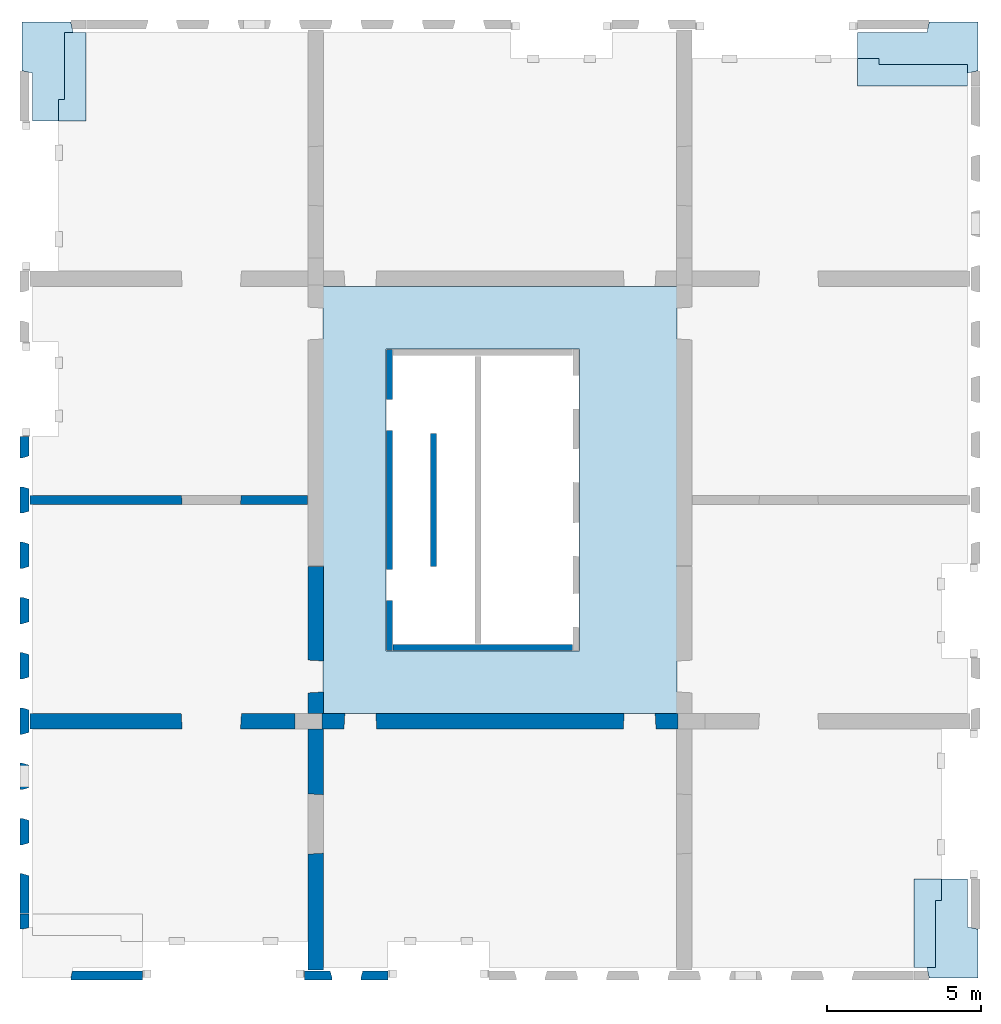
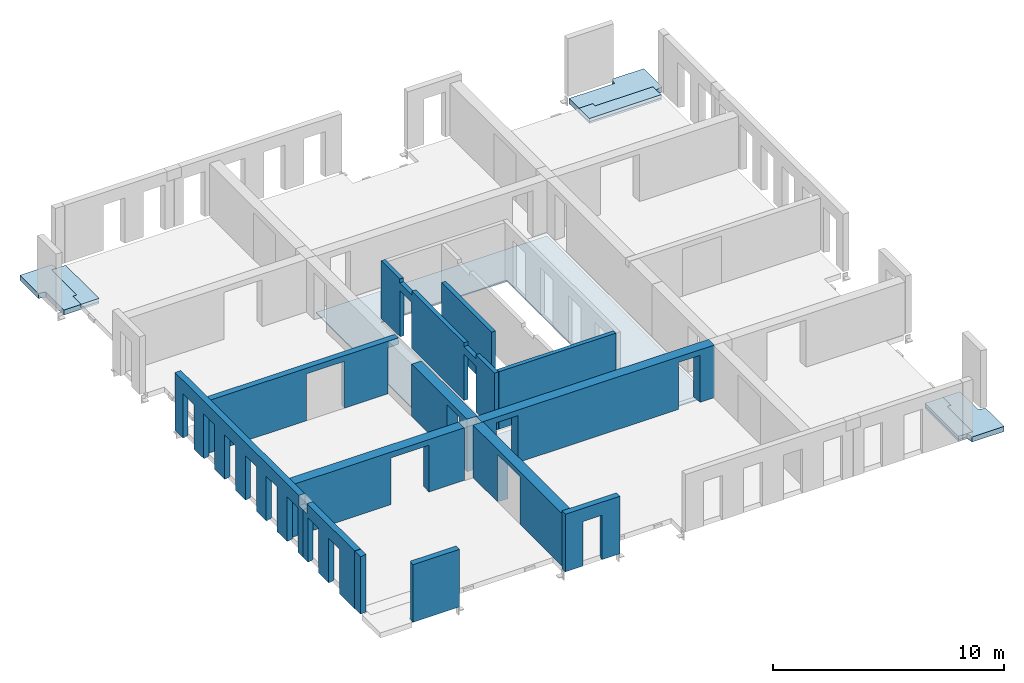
# One storey, part 2 of 4: 13 walls, 7 slabs, 25 openings.
"""IFC2X3 building model written with IfcOpenShell, lengths in millimetres."""

from ifc_helpers import new_model, entity, si_unit, converted_unit, derived_unit, direction, frame, frame_2d, origin, origin_2d_with_axis, place, context, subcontext, project, spatial, polyline, rectangle, outline, extrude, faceted_brep, material, layer, layer_set, layer_usage, type_object, element, save


model = new_model("IFC2X3")

# Units and contexts
model_context = context("Model", 3, precision=0.01, world=origin(), true_north=direction((6.12303176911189e-17, 1.0)))
body_context = subcontext(model_context, "Body", "Model", "MODEL_VIEW")
ifc_project = project(units=[si_unit("LENGTHUNIT", "METRE", prefix="MILLI"), si_unit("AREAUNIT", "SQUARE_METRE"), si_unit("VOLUMEUNIT", "CUBIC_METRE"), converted_unit("PLANEANGLEUNIT", "DEGREE", entity("IfcRatioMeasure", 0.0174532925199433), si_unit("PLANEANGLEUNIT", "RADIAN"), dimensions=[0, 0, 0, 0, 0, 0, 0]), si_unit("MASSUNIT", "GRAM", prefix="KILO"), derived_unit("MASSDENSITYUNIT", [(si_unit("MASSUNIT", "GRAM", prefix="KILO"), 1), (si_unit("LENGTHUNIT", "METRE"), -3)]), si_unit("TIMEUNIT", "SECOND"), si_unit("FREQUENCYUNIT", "HERTZ"), si_unit("THERMODYNAMICTEMPERATUREUNIT", "DEGREE_CELSIUS"), derived_unit("THERMALTRANSMITTANCEUNIT", [(si_unit("MASSUNIT", "GRAM", prefix="KILO"), 1), (si_unit("THERMODYNAMICTEMPERATUREUNIT", "KELVIN"), -1), (si_unit("TIMEUNIT", "SECOND"), -3)]), derived_unit("VOLUMETRICFLOWRATEUNIT", [(si_unit("LENGTHUNIT", "METRE"), 3), (si_unit("TIMEUNIT", "SECOND"), -1)]), si_unit("ELECTRICCURRENTUNIT", "AMPERE"), si_unit("ELECTRICVOLTAGEUNIT", "VOLT"), si_unit("POWERUNIT", "WATT"), si_unit("FORCEUNIT", "NEWTON", prefix="KILO"), si_unit("ILLUMINANCEUNIT", "LUX"), si_unit("LUMINOUSFLUXUNIT", "LUMEN"), si_unit("LUMINOUSINTENSITYUNIT", "CANDELA"), derived_unit("USERDEFINED", [(si_unit("MASSUNIT", "GRAM", prefix="KILO"), -1), (si_unit("LENGTHUNIT", "METRE"), -2), (si_unit("TIMEUNIT", "SECOND"), 3), (si_unit("LUMINOUSFLUXUNIT", "LUMEN"), 1)]), derived_unit("LINEARVELOCITYUNIT", [(si_unit("LENGTHUNIT", "METRE"), 1), (si_unit("TIMEUNIT", "SECOND"), -1)]), si_unit("PRESSUREUNIT", "PASCAL"), derived_unit("USERDEFINED", [(si_unit("LENGTHUNIT", "METRE"), -2), (si_unit("MASSUNIT", "GRAM", prefix="KILO"), 1), (si_unit("TIMEUNIT", "SECOND"), -2)])], contexts=[model_context])

# Site, building, storey
site_placement = place(None, origin())
site = spatial("IfcSite", under=ifc_project, at=site_placement, Name="Default", CompositionType="ELEMENT")
building_placement = place(site_placement, origin())
building = spatial("IfcBuilding", under=site, at=building_placement, Name="niet gebruiken", CompositionType="ELEMENT")
storey_placement = place(building_placement, frame((0.0, 0.0, 30240.0)))
storey = spatial("IfcBuildingStorey", under=building, at=storey_placement, Name="09 negende verdieping", CompositionType="ELEMENT", Elevation=30240.0)

# Slabs
ifc_material_1 = material(Name="NLRS_f2_beton prefab")
ifc_layer_1 = layer(ifc_material_1, 270.0)
ifc_layer_set_1 = layer_set([ifc_layer_1], Name="Floor:NLRS_23.22_FL_beton prefab d=270 3D element_gen")
ifc_layer_usage_1 = layer_usage(ifc_layer_set_1, "AXIS3", "POSITIVE", 0.0)
slab_1_placement = place(storey_placement, origin())
element("IfcSlab", 1, at=slab_1_placement, inside=storey, material=ifc_layer_usage_1, Name="Floor:NLRS_23.22_FL_beton prefab d=270 3D element_gen", ObjectType="Floor:NLRS_23.22_FL_beton prefab d=270 3D element_gen", PredefinedType="LANDING", context=body_context, shape_type="SweptSolid", body=[
    extrude(outline(polyline([(-962.018416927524, -1072.98158307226), (1927.98158307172, -1072.98158307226), (1927.98158307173, 677.01841692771), (362.981583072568, 677.018416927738), (295.128918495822, 1010.01841692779), (-1295.01841692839, 1010.01841692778), (-1295.0184169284, -580.128918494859), (-962.018416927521, -647.981583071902), (-962.018416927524, -1072.98158307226)])), frame((156302.981583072, 3232.01841692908, -90.0), z_axis=(0.0, 0.0, -1.0), x_axis=(0.0, 1.0, 0.0)), (0.0, 0.0, 1.0), 269.999999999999),
])
ifc_layer_usage_2 = layer_usage(ifc_layer_set_1, "AXIS3", "POSITIVE", 0.0)
slab_2_placement = place(storey_placement, origin())
element("IfcSlab", 2, at=slab_2_placement, inside=storey, material=ifc_layer_usage_2, Name="Floor:NLRS_23.22_FL_beton prefab d=270 3D element_gen", ObjectType="Floor:NLRS_23.22_FL_beton prefab d=270 3D element_gen", PredefinedType="LANDING", context=body_context, shape_type="SweptSolid", body=[
    extrude(outline(polyline([(-295.128918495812, -1010.0184169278), (1295.0184169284, -1010.0184169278), (1295.01841692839, 580.128918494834), (962.018416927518, 647.981583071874), (962.018416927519, 1072.98158307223), (-1927.98158307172, 1072.98158307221), (-1927.98158307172, -677.018416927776), (-362.981583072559, -677.018416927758), (-295.128918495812, -1010.0184169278)])), frame((127197.018416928, 31767.9815830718, -90.0), z_axis=(0.0, 0.0, -1.0), x_axis=(0.0, 1.0, 0.0)), (0.0, 0.0, 1.0), 269.999999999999),
])
ifc_layer_usage_3 = layer_usage(ifc_layer_set_1, "AXIS3", "POSITIVE", 0.0)
slab_3_placement = place(storey_placement, origin())
element("IfcSlab", 3, at=slab_3_placement, inside=storey, material=ifc_layer_usage_3, Name="Floor:NLRS_23.22_FL_beton prefab d=270 3D element_gen", ObjectType="Floor:NLRS_23.22_FL_beton prefab d=270 3D element_gen", PredefinedType="LANDING", context=body_context, shape_type="SweptSolid", body=[
    extrude(outline(polyline([(-1072.981583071, -2452.9815830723), (677.018416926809, -2452.9815830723), (677.018416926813, -187.981583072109), (1010.01841692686, -120.12891849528), (1010.01841692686, 1470.01841692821), (-580.128918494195, 1470.01841692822), (-647.981583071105, 1137.01841692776), (-1072.981583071, 1137.01841692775), (-1072.981583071, -2452.9815830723)])), frame((155842.981583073, 32052.9815830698, -90.0), z_axis=(0.0, 0.0, -1.0), x_axis=(0.0, 1.0, 0.0)), (0.0, 0.0, 1.0), 269.999999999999),
])
ifc_material_2 = material(Name="NLRS_f2_beton ihwg")
ifc_layer_2 = layer(ifc_material_2, 170.0)
ifc_layer_set_2 = layer_set([ifc_layer_2], Name="Floor:NLRS_23.21_FL_beton ihwg d=170_gen")
ifc_layer_usage_4 = layer_usage(ifc_layer_set_2, "AXIS3", "POSITIVE", 0.0)
slab_4_placement = place(storey_placement, origin())
element("IfcSlab", 4, at=slab_4_placement, inside=storey, material=ifc_layer_usage_4, Name="Floor:NLRS_23.21_FL_beton ihwg d=170_gen", ObjectType="Floor:NLRS_23.21_FL_beton ihwg d=170_gen", PredefinedType="FLOOR", context=body_context, shape_type="SweptSolid", body=[
    extrude(outline(polyline([(-533.333333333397, -1430.0), (366.666666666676, -1430.0), (366.666666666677, -730.0), (166.666666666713, -730.0), (166.666666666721, 2160.0), (-533.333333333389, 2160.0), (-533.333333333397, -1430.0)])), frame((154820.0, 31513.3333333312, -90.0), z_axis=(0.0, 0.0, -1.0), x_axis=(0.0, 1.0, 0.0)), (0.0, 0.0, 1.0), 170.0),
])
ifc_layer_usage_5 = layer_usage(ifc_layer_set_2, "AXIS3", "POSITIVE", 0.0)
slab_5_placement = place(storey_placement, origin())
element("IfcSlab", 5, at=slab_5_placement, inside=storey, material=ifc_layer_usage_5, Name="Floor:NLRS_23.21_FL_beton ihwg d=170_gen", ObjectType="Floor:NLRS_23.21_FL_beton ihwg d=170_gen", PredefinedType="FLOOR", context=body_context, shape_type="SweptSolid", body=[
    extrude(outline(polyline([(-1693.33333333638, -533.333333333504), (1196.66666666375, -533.333333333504), (1196.66666666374, 366.666666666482), (496.666666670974, 366.666666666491), (496.666666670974, 166.666666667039), (-1693.33333333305, 166.66666666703), (-1693.33333333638, -533.333333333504)])), frame((155763.333333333, 3963.33333333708, -90.0), z_axis=(0.0, 0.0, -1.0), x_axis=(0.0, 1.0, 0.0)), (0.0, 0.0, 1.0), 170.0),
])
ifc_layer_usage_6 = layer_usage(ifc_layer_set_2, "AXIS3", "POSITIVE", 0.0)
slab_6_placement = place(storey_placement, origin())
element("IfcSlab", 6, at=slab_6_placement, inside=storey, material=ifc_layer_usage_6, Name="Floor:NLRS_23.21_FL_beton ihwg d=170_gen", ObjectType="Floor:NLRS_23.21_FL_beton ihwg d=170_gen", PredefinedType="FLOOR", context=body_context, shape_type="SweptSolid", body=[
    extrude(outline(polyline([(-1196.66666666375, -366.666666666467), (-496.666666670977, -366.666666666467), (-496.666666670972, -166.666666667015), (1693.33333333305, -166.666666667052), (1693.33333333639, 533.333333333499), (-1196.66666666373, 533.333333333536), (-1196.66666666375, -366.666666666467)])), frame((127736.666666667, 31036.6666666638, -90.0), z_axis=(0.0, 0.0, -1.0), x_axis=(0.0, 1.0, 0.0)), (0.0, 0.0, 1.0), 170.0),
])

# Slab, opening
ifc_layer_3 = layer(ifc_material_1, 60.0)
ifc_layer_set_3 = layer_set([ifc_layer_3], Name="Floor:NLRS_23.21_FL_breedplaat d=60_gen")
ifc_layer_usage_7 = layer_usage(ifc_layer_set_3, "AXIS3", "POSITIVE", 0.0)
slab_7_placement = place(storey_placement, frame((135990.0, 10540.0, -320.0)))
slab_7 = element("IfcSlab", 7, at=slab_7_placement, inside=storey, material=ifc_layer_usage_7, Name="Floor:NLRS_23.21_FL_breedplaat d=60_gen", ObjectType="Floor:NLRS_23.21_FL_breedplaat d=60_gen", PredefinedType="FLOOR", context=body_context, shape_type="SweptSolid", body=[
    extrude(rectangle(XDim=13919.9999999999, YDim=11520.0, at=frame_2d((0.0, 0.0), x_axis=(0.0, -1.0))), frame((5760.0, 6960.0, 60.0), z_axis=(0.0, 0.0, -1.0), x_axis=(-1.0, 0.0, 0.0)), (0.0, 0.0, 1.0), 59.9999999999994),
])
opening_1_placement = place(slab_7_placement, frame((5200.0, 6960.0, 60.0)))
element("IfcOpeningElement", 8, at=opening_1_placement, cuts=slab_7, Name="Floor:NLRS_23.21_FL_breedplaat d=60_gen:2", ObjectType="Opening", context=body_context, shape_type="SweptSolid", body=[
    extrude(rectangle(XDim=9820.0, YDim=6299.99999999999, at=origin_2d_with_axis()), frame((0.0, 0.0, 0.0), z_axis=(0.0, 0.0, -1.0), x_axis=(0.0, -1.0, 0.0)), (0.0, 0.0, 1.0), 59.9999999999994),
])

# Wall, openings
ifc_layer_4 = layer(ifc_material_1, 200.0)
ifc_layer_set_4 = layer_set([ifc_layer_4], Name="Basic Wall:NLRS_22.21_WA_beton prefab d=200_gen")
ifc_layer_usage_8 = layer_usage(ifc_layer_set_4, "AXIS2", "NEGATIVE", 100.0)
wall_type_1 = type_object("IfcWallType", Name="Basic Wall:NLRS_22.21_WA_beton prefab d=200_gen", PredefinedType="STANDARD", material=ifc_layer_set_4)
wall_1_placement = place(storey_placement, frame((138150.0, 22400.0, -50.0), z_axis=(0.0, 0.0, 1.0), x_axis=(0.0, -1.0, 0.0)))
wall_1 = element("IfcWallStandardCase", 9, at=wall_1_placement, inside=storey, type_object=wall_type_1, material=ifc_layer_usage_8, Name="Basic Wall:NLRS_22.21_WA_beton prefab d=200_gen", ObjectType="Basic Wall:NLRS_22.21_WA_beton prefab d=200_gen", context=body_context, shape_type="SweptSolid", body=[
    extrude(rectangle(XDim=9800.0, YDim=199.999999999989, at=frame_2d((4900.0, 3.76587649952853e-13), x_axis=(-1.0, 0.0))), origin(), (0.0, 0.0, 1.0), 3039.99999999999),
])
opening_2_placement = place(wall_1_placement, origin())
element("IfcOpeningElement", 10, at=opening_2_placement, cuts=wall_1, Name="Basic Wall:NLRS_22.21_WA_beton prefab d=200_gen", ObjectType="Opening", context=body_context, shape_type="SweptSolid", body=[
    extrude(rectangle(XDim=199.999999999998, YDim=1044.0, at=origin_2d_with_axis()), frame((7672.0, -100.0, 2940.0), z_axis=(0.0, 1.0, 0.0), x_axis=(0.0, 0.0, -1.0)), (0.0, 0.0, 1.0), 199.999999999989),
])
opening_3_placement = place(wall_1_placement, origin())
element("IfcOpeningElement", 11, at=opening_3_placement, cuts=wall_1, Name="Basic Wall:NLRS_22.21_WA_beton prefab d=200_gen", ObjectType="Opening", context=body_context, shape_type="SweptSolid", body=[
    extrude(rectangle(XDim=199.999999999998, YDim=1044.0, at=frame_2d((0.0, 2.1600499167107e-12), x_axis=(1.0, 0.0))), frame((2128.0, -100.0, 2940.0), z_axis=(0.0, 1.0, 0.0), x_axis=(0.0, 0.0, -1.0)), (0.0, 0.0, 1.0), 199.999999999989),
])
opening_4_placement = place(wall_1_placement, origin())
element("IfcOpeningElement", 12, at=opening_4_placement, cuts=wall_1, Name="Basic Wall:NLRS_22.21_WA_beton prefab d=200_gen", ObjectType="Opening", context=body_context, shape_type="SweptSolid", body=[
    extrude(rectangle(XDim=2435.00000000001, YDim=1015.99999999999, at=frame_2d((4.32009983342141e-12, 1.10844666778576e-12), x_axis=(1.0, 0.0))), frame((7672.0, -100.0, 1217.50000000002), z_axis=(0.0, 1.0, 0.0), x_axis=(0.0, 0.0, -1.0)), (0.0, 0.0, 1.0), 199.999999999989),
])
opening_5_placement = place(wall_1_placement, origin())
element("IfcOpeningElement", 13, at=opening_5_placement, cuts=wall_1, Name="Basic Wall:NLRS_22.21_WA_beton prefab d=200_gen", ObjectType="Opening", context=body_context, shape_type="SweptSolid", body=[
    extrude(rectangle(XDim=2435.00000000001, YDim=1015.99999999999, at=frame_2d((4.32009983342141e-12, -2.18847162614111e-12), x_axis=(1.0, 0.0))), frame((2128.0, -100.0, 1217.50000000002), z_axis=(0.0, 1.0, 0.0), x_axis=(0.0, 0.0, -1.0)), (0.0, 0.0, 1.0), 199.999999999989),
])

# Walls
ifc_layer_usage_9 = layer_usage(ifc_layer_set_4, "AXIS2", "NEGATIVE", 100.0)
wall_2_placement = place(storey_placement, frame((139590.0, 19660.0, -50.0), z_axis=(0.0, 0.0, 1.0), x_axis=(0.0, -1.0, 0.0)))
element("IfcWallStandardCase", 14, at=wall_2_placement, inside=storey, type_object=wall_type_1, material=ifc_layer_usage_9, Name="Basic Wall:NLRS_22.21_WA_beton prefab d=200_gen", ObjectType="Basic Wall:NLRS_22.21_WA_beton prefab d=200_gen", context=body_context, shape_type="SweptSolid", body=[
    extrude(rectangle(XDim=4320.00000000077, YDim=199.999999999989, at=frame_2d((2160.00000000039, 0.0), x_axis=(-1.0, 0.0))), origin(), (0.0, 0.0, 1.0), 3039.99999999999),
])
ifc_layer_usage_10 = layer_usage(ifc_layer_set_4, "AXIS2", "NEGATIVE", 100.0)
wall_3_placement = place(storey_placement, frame((138270.0, 12700.0, -50.0)))
element("IfcWallStandardCase", 15, at=wall_3_placement, inside=storey, type_object=wall_type_1, material=ifc_layer_usage_10, Name="Basic Wall:NLRS_22.21_WA_beton prefab d=200_gen", ObjectType="Basic Wall:NLRS_22.21_WA_beton prefab d=200_gen", context=body_context, shape_type="SweptSolid", body=[
    extrude(rectangle(XDim=5839.99999999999, YDim=199.999999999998, at=frame_2d((2919.99999999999, -6.82121026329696e-13), x_axis=(-1.0, 0.0))), origin(), (0.0, 0.0, 1.0), 3039.99999999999),
])

# Wall, openings
ifc_layer_5 = layer(ifc_material_1, 300.0)
ifc_layer_set_5 = layer_set([ifc_layer_5], Name="Basic Wall:NLRS_22.21_WA_beton prefab d=300_gen")
ifc_layer_usage_11 = layer_usage(ifc_layer_set_5, "AXIS2", "NEGATIVE", 150.0)
wall_type_2 = type_object("IfcWallType", Name="Basic Wall:NLRS_22.21_WA_beton prefab d=300_gen", PredefinedType="STANDARD", material=ifc_layer_set_5)
wall_4_placement = place(storey_placement, frame((126440.0, 17500.0, -70.0)))
wall_4 = element("IfcWallStandardCase", 16, at=wall_4_placement, inside=storey, type_object=wall_type_2, material=ifc_layer_usage_11, Name="Basic Wall:NLRS_22.21_WA_beton prefab d=300_gen", ObjectType="Basic Wall:NLRS_22.21_WA_beton prefab d=300_gen", context=body_context, shape_type="SweptSolid", body=[
    extrude(rectangle(XDim=9559.9999999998, YDim=300.000000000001, at=frame_2d((4779.9999999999, -4.2632564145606e-14), x_axis=(-1.0, 0.0))), origin(), (0.0, 0.0, 1.0), 2770.0),
])
opening_6_placement = place(wall_4_placement, frame((4942.0, -150.0, 0.0)))
element("IfcOpeningElement", 17, at=opening_6_placement, cuts=wall_4, Name="Basic Wall:NLRS_22.21_WA_beton prefab d=300_gen", ObjectType="Opening", context=body_context, shape_type="Brep", body=[
    faceted_brep([(1918.0, 0.0, 2470.0), (18.0, 0.0, 2470.0), (18.0, 0.0, 0.0), (1918.0, 0.0, 0.0), (1936.0, 300.0, 2488.0), (1936.0, 300.0, 0.0), (0.0, 300.0, 0.0), (0.0, 300.0, 2488.0)], [[[0, 1, 2, 3]], [[4, 5, 6, 7]], [[4, 7, 1, 0]], [[7, 6, 2, 1]], [[6, 5, 3, 2]], [[5, 4, 0, 3]]]),
])
opening_7_placement = place(wall_4_placement, origin())
element("IfcOpeningElement", 18, at=opening_7_placement, cuts=wall_4, Name="Basic Wall:NLRS_22.21_WA_beton prefab d=300_gen", ObjectType="Opening", context=body_context, shape_type="SweptSolid", body=[
    extrude(rectangle(XDim=2440.0, YDim=520.000000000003, at=frame_2d((8.64019966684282e-12, 0.0), x_axis=(0.0, 1.0))), frame((9300.0, 150.0, 1220.0), z_axis=(0.0, -1.0, 0.0), x_axis=(1.0, 0.0, 0.0)), (0.0, 0.0, 1.0), 300.0),
])

# Wall, opening
ifc_layer_6 = layer(ifc_material_1, 500.0)
ifc_layer_set_6 = layer_set([ifc_layer_6], Name="Basic Wall:NLRS_22.21_WA_beton prefab d=500_gen")
ifc_layer_usage_12 = layer_usage(ifc_layer_set_6, "AXIS2", "NEGATIVE", 250.0)
wall_type_3 = type_object("IfcWallType", Name="Basic Wall:NLRS_22.21_WA_beton prefab d=500_gen", PredefinedType="STANDARD", material=ifc_layer_set_6)
wall_5_placement = place(storey_placement, frame((135750.0, 10050.0, -70.0), z_axis=(0.0, 0.0, 1.0), x_axis=(0.0, -1.0, 0.0)))
wall_5 = element("IfcWallStandardCase", 19, at=wall_5_placement, inside=storey, type_object=wall_type_3, material=ifc_layer_usage_12, Name="Basic Wall:NLRS_22.21_WA_beton prefab d=500_gen", ObjectType="Basic Wall:NLRS_22.21_WA_beton prefab d=500_gen", context=body_context, shape_type="SweptSolid", body=[
    extrude(rectangle(XDim=7859.99999999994, YDim=499.99999999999, at=frame_2d((3929.99999999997, 8.5265128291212e-14), x_axis=(-1.0, 0.0))), origin(), (0.0, 0.0, 1.0), 2770.0),
])
opening_8_placement = place(wall_5_placement, frame((4080.0, -250.0, 0.0)))
element("IfcOpeningElement", 20, at=opening_8_placement, cuts=wall_5, Name="Basic Wall:NLRS_22.21_WA_beton prefab d=500_gen", ObjectType="Opening", context=body_context, shape_type="Brep", body=[
    faceted_brep([(-30.0, 500.0, 2470.0), (-30.0, 500.0, 0.0), (-1930.0, 500.0, 0.0), (-1930.0, 500.0, 2470.0), (0.0, 0.0, 2500.0), (-1960.0, 0.0, 2500.0), (-1960.0, 0.0, 0.0), (0.0, 0.0, 0.0)], [[[0, 1, 2, 3]], [[4, 5, 6, 7]], [[4, 0, 3, 5]], [[5, 3, 2, 6]], [[6, 2, 1, 7]], [[7, 1, 0, 4]]]),
])

# Wall, openings
ifc_layer_usage_13 = layer_usage(ifc_layer_set_6, "AXIS2", "NEGATIVE", 250.0)
wall_6_placement = place(storey_placement, frame((135950.003540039, 10300.0, -70.0)))
wall_6 = element("IfcWallStandardCase", 21, at=wall_6_placement, inside=storey, type_object=wall_type_3, material=ifc_layer_usage_13, Name="Basic Wall:NLRS_22.21_WA_beton prefab d=500_gen", ObjectType="Basic Wall:NLRS_22.21_WA_beton prefab d=500_gen", context=body_context, shape_type="SweptSolid", body=[
    extrude(rectangle(XDim=11599.9964599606, YDim=499.999999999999, at=frame_2d((5799.9982299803, 1.4210854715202e-13), x_axis=(-1.0, 0.0))), origin(), (0.0, 0.0, 1.0), 2770.00000000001),
])
opening_9_placement = place(wall_6_placement, frame((719.996459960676, -250.0, 0.0)))
element("IfcOpeningElement", 22, at=opening_9_placement, cuts=wall_6, Name="Basic Wall:NLRS_22.21_WA_beton prefab d=500_gen", ObjectType="Opening", context=body_context, shape_type="Brep", body=[
    faceted_brep([(0.0, 0.0, 2478.0), (30.0, 500.0, 2448.0), (30.0, 500.0, 0.0), (0.0, 0.0, 0.0), (1036.0, 500.0, 0.0), (1066.0, 0.0, 0.0), (1036.0, 500.0, 2448.0), (1066.0, 0.0, 2478.0)], [[[0, 1, 2, 3]], [[3, 2, 4, 5]], [[6, 4, 2, 1]], [[7, 0, 3, 5]], [[7, 6, 1, 0]], [[5, 4, 6, 7]]]),
])
opening_10_placement = place(wall_6_placement, frame((9813.99645996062, -250.0, 0.0)))
element("IfcOpeningElement", 23, at=opening_10_placement, cuts=wall_6, Name="Basic Wall:NLRS_22.21_WA_beton prefab d=500_gen", ObjectType="Opening", context=body_context, shape_type="Brep", body=[
    faceted_brep([(0.0, 0.0, 2478.0), (30.0, 500.0, 2448.0), (30.0, 500.0, 0.0), (0.0, 0.0, 0.0), (1036.0, 500.0, 0.0), (1066.0, 0.0, 0.0), (1036.0, 500.0, 2448.0), (1066.0, 0.0, 2478.0)], [[[0, 1, 2, 3]], [[3, 2, 4, 5]], [[6, 4, 2, 1]], [[7, 0, 3, 5]], [[7, 6, 1, 0]], [[5, 4, 6, 7]]]),
])

# Wall, opening
ifc_layer_usage_14 = layer_usage(ifc_layer_set_6, "AXIS2", "NEGATIVE", 250.0)
wall_7_placement = place(storey_placement, frame((126440.0, 10300.0, -70.0)))
wall_7 = element("IfcWallStandardCase", 24, at=wall_7_placement, inside=storey, type_object=wall_type_3, material=ifc_layer_usage_14, Name="Basic Wall:NLRS_22.21_WA_beton prefab d=500_gen", ObjectType="Basic Wall:NLRS_22.21_WA_beton prefab d=500_gen", context=body_context, shape_type="SweptSolid", body=[
    extrude(rectangle(XDim=8630.00354003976, YDim=499.999999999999, at=frame_2d((4315.00177001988, 4.2632564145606e-14), x_axis=(-1.0, 0.0))), origin(), (0.0, 0.0, 1.0), 2770.0),
])
opening_11_placement = place(wall_7_placement, frame((4930.0, -250.0, 0.0)))
element("IfcOpeningElement", 25, at=opening_11_placement, cuts=wall_7, Name="Basic Wall:NLRS_22.21_WA_beton prefab d=500_gen", ObjectType="Opening", context=body_context, shape_type="Brep", body=[
    faceted_brep([(1930.0, 0.0, 2470.0), (30.0, 0.0, 2470.0), (30.0, 0.0, 0.0), (1930.0, 0.0, 0.0), (1960.0, 500.0, 2500.0), (1960.0, 500.0, 0.0), (0.0, 500.0, 0.0), (0.0, 500.0, 2500.0)], [[[0, 1, 2, 3]], [[4, 5, 6, 7]], [[4, 7, 1, 0]], [[7, 6, 2, 1]], [[6, 5, 3, 2]], [[5, 4, 0, 3]]]),
])

ifc_layer_usage_15 = layer_usage(ifc_layer_set_6, "AXIS2", "NEGATIVE", 250.0)
wall_8_placement = place(storey_placement, frame((135750.0, 15340.0, -70.0), z_axis=(0.0, 0.0, 1.0), x_axis=(0.0, -1.0, 0.0)))
wall_8 = element("IfcWallStandardCase", 26, at=wall_8_placement, inside=storey, type_object=wall_type_3, material=ifc_layer_usage_15, Name="Basic Wall:NLRS_22.21_WA_beton prefab d=500_gen", ObjectType="Basic Wall:NLRS_22.21_WA_beton prefab d=500_gen", context=body_context, shape_type="SweptSolid", body=[
    extrude(rectangle(XDim=4789.99999999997, YDim=499.99999999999, at=frame_2d((2394.99999999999, 0.0), x_axis=(-1.0, 0.0))), origin(), (0.0, 0.0, 1.0), 2770.00000000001),
])
opening_12_placement = place(wall_8_placement, frame((4120.0, -250.0, 0.0)))
element("IfcOpeningElement", 27, at=opening_12_placement, cuts=wall_8, Name="Basic Wall:NLRS_22.21_WA_beton prefab d=500_gen", ObjectType="Opening", context=body_context, shape_type="Brep", body=[
    faceted_brep([(-1066.0, 0.0, 2478.0), (-1036.0, 500.0, 2448.0), (-1036.0, 500.0, 0.0), (-1066.0, 0.0, 0.0), (-30.0, 500.0, 0.0), (0.0, 0.0, 0.0), (-30.0, 500.0, 2448.0), (0.0, 0.0, 2478.0)], [[[0, 1, 2, 3]], [[3, 2, 4, 5]], [[6, 4, 2, 1]], [[7, 0, 3, 5]], [[7, 6, 1, 0]], [[5, 4, 6, 7]]]),
])

ifc_layer_7 = layer(ifc_material_1, 300.0)
ifc_layer_set_7 = layer_set([ifc_layer_7], Name="Basic Wall:NLRS_21.21_WA_beton prefab d=300/320_gen")
ifc_layer_usage_16 = layer_usage(ifc_layer_set_7, "AXIS2", "NEGATIVE", 150.0)
wall_type_4 = type_object("IfcWallType", Name="Basic Wall:NLRS_21.21_WA_beton prefab d=300/320_gen", PredefinedType="STANDARD", material=ifc_layer_set_7)
wall_9_placement = place(storey_placement, frame((138110.0, 2020.0, -50.0), z_axis=(0.0, 0.0, 1.0), x_axis=(-1.0, 0.0, 0.0)))
wall_9 = element("IfcWallStandardCase", 28, at=wall_9_placement, inside=storey, type_object=wall_type_4, material=ifc_layer_usage_16, Name="Basic Wall:NLRS_21.21_WA_beton prefab d=300/320_gen", ObjectType="Basic Wall:NLRS_21.21_WA_beton prefab d=300/320_gen", context=body_context, shape_type="SweptSolid", body=[
    extrude(rectangle(XDim=2720.00000000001, YDim=300.0, at=frame_2d((1360.0, -8.5265128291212e-14), x_axis=(-1.0, 0.0))), origin(), (0.0, 0.0, 1.0), 3040.0),
])
opening_13_placement = place(wall_9_placement, frame((1895.0, 150.0, -20.0)))
element("IfcOpeningElement", 29, at=opening_13_placement, cuts=wall_9, Name="Basic Wall:NLRS_21.21_WA_beton prefab d=300/320_gen", ObjectType="Opening", context=body_context, shape_type="Brep", body=[
    faceted_brep([(-1070.0, -300.0, 2405.0), (-1070.0, -300.0, 0.0), (0.0, -300.0, 0.0), (0.0, -300.0, 2405.0), (-65.0, -81.0, 2370.0), (-1005.0, -81.0, 2370.0), (-65.0, -81.0, 0.0), (-1005.0, -81.0, 0.0), (-1005.0, 0.0, 0.0), (-65.0, 0.0, 0.0), (-1005.0, 0.0, 2370.0), (-65.0, 0.0, 2370.0)], [[[0, 1, 2, 3]], [[3, 4, 5, 0]], [[2, 6, 4, 3]], [[1, 7, 8, 9, 6, 2]], [[0, 5, 7, 1]], [[10, 11, 9, 8]], [[10, 5, 4, 11]], [[11, 4, 6, 9]], [[8, 7, 5, 10]]]),
])

# Wall, openings
ifc_layer_usage_17 = layer_usage(ifc_layer_set_7, "AXIS2", "NEGATIVE", 150.0)
wall_10_placement = place(storey_placement, frame((126270.0, 4040.0, -50.0), z_axis=(0.0, 0.0, 1.0), x_axis=(0.0, 1.0, 0.0)))
wall_10 = element("IfcWallStandardCase", 30, at=wall_10_placement, inside=storey, type_object=wall_type_4, material=ifc_layer_usage_17, Name="Basic Wall:NLRS_21.21_WA_beton prefab d=300/320_gen", ObjectType="Basic Wall:NLRS_21.21_WA_beton prefab d=300/320_gen", context=body_context, shape_type="SweptSolid", body=[
    extrude(rectangle(XDim=4460.0000000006, YDim=300.000000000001, at=frame_2d((2230.0000000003, 0.0), x_axis=(-1.0, 0.0))), origin(), (0.0, 0.0, 1.0), 3040.0),
])
opening_14_placement = place(wall_10_placement, frame((1225.0, 150.0, -20.0)))
element("IfcOpeningElement", 31, at=opening_14_placement, cuts=wall_10, Name="Basic Wall:NLRS_21.21_WA_beton prefab d=300/320_gen", ObjectType="Opening", context=body_context, shape_type="Brep", body=[
    faceted_brep([(0.0, -300.0, 2405.0), (0.0, -300.0, 0.0), (1070.0, -300.0, 0.0), (1070.0, -300.0, 2405.0), (1005.0, -81.0, 2370.0), (65.0, -81.0, 2370.0), (1005.0, -81.0, 0.0), (65.0, -81.0, 0.0), (65.0, 0.0, 0.0), (1005.0, 0.0, 0.0), (65.0, 0.0, 2370.0), (1005.0, 0.0, 2370.0)], [[[0, 1, 2, 3]], [[3, 4, 5, 0]], [[2, 6, 4, 3]], [[1, 7, 8, 9, 6, 2]], [[0, 5, 7, 1]], [[10, 11, 9, 8]], [[10, 5, 4, 11]], [[11, 4, 6, 9]], [[8, 7, 5, 10]]]),
])
opening_15_placement = place(wall_10_placement, frame((3025.0, 150.0, -20.0)))
element("IfcOpeningElement", 32, at=opening_15_placement, cuts=wall_10, Name="Basic Wall:NLRS_21.21_WA_beton prefab d=300/320_gen", ObjectType="Opening", context=body_context, shape_type="Brep", body=[
    faceted_brep([(0.0, -300.0, 2405.0), (0.0, -300.0, 0.0), (1070.0, -300.0, 0.0), (1070.0, -300.0, 2405.0), (1005.0, -81.0, 2370.0), (65.0, -81.0, 2370.0), (1005.0, -81.0, 0.0), (65.0, -81.0, 0.0), (65.0, 0.0, 0.0), (1005.0, 0.0, 0.0), (65.0, 0.0, 2370.0), (1005.0, 0.0, 2370.0)], [[[0, 1, 2, 3]], [[3, 4, 5, 0]], [[2, 6, 4, 3]], [[1, 7, 8, 9, 6, 2]], [[0, 5, 7, 1]], [[10, 11, 9, 8]], [[10, 5, 4, 11]], [[11, 4, 6, 9]], [[8, 7, 5, 10]]]),
])
opening_16_placement = place(wall_10_placement, origin())
element("IfcOpeningElement", 33, at=opening_16_placement, cuts=wall_10, Name="Basic Wall:NLRS_21.21_WA_beton prefab d=300/320_gen", ObjectType="Opening", context=body_context, shape_type="SweptSolid", body=[
    extrude(rectangle(XDim=534.999999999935, YDim=345.000000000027, at=frame_2d((-2.18847162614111e-12, -5.40012479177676e-13), x_axis=(1.0, 0.0))), frame((4287.50000000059, 150.0, 2772.50000000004), z_axis=(0.0, -1.0, 0.0), x_axis=(0.0, 0.0, 1.0)), (0.0, 0.0, 1.0), 300.0),
])

# Wall, opening
ifc_layer_usage_18 = layer_usage(ifc_layer_set_7, "AXIS2", "NEGATIVE", 150.0)
wall_11_placement = place(storey_placement, frame((130110.0, 2020.0, -50.0), z_axis=(0.0, 0.0, 1.0), x_axis=(-1.0, 0.0, 0.0)))
wall_11 = element("IfcWallStandardCase", 34, at=wall_11_placement, inside=storey, type_object=wall_type_4, material=ifc_layer_usage_18, Name="Basic Wall:NLRS_21.21_WA_beton prefab d=300/320_gen", ObjectType="Basic Wall:NLRS_21.21_WA_beton prefab d=300/320_gen", context=body_context, shape_type="SweptSolid", body=[
    extrude(rectangle(XDim=2330.00000000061, YDim=300.0, at=frame_2d((1165.00000000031, -5.6843418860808e-14), x_axis=(-1.0, 0.0))), origin(), (0.0, 0.0, 1.0), 3040.0),
])
opening_17_placement = place(wall_11_placement, frame((2330.0, 69.0, 0.0)))
element("IfcOpeningElement", 35, at=opening_17_placement, cuts=wall_11, Name="Basic Wall:NLRS_21.21_WA_beton prefab d=300/320_gen", ObjectType="Opening", context=body_context, shape_type="Brep", body=[
    faceted_brep([(0.0, -319.0, 3040.0), (0.0, 0.0, 3040.0), (-65.0, -319.0, 3040.0), (0.0, -319.0, 0.0), (-65.0, -319.0, 0.0), (0.0, 0.0, 0.0)], [[[0, 1, 2]], [[3, 4, 5]], [[2, 4, 3, 0]], [[0, 3, 5, 1]], [[1, 5, 4, 2]]]),
])

ifc_layer_usage_19 = layer_usage(ifc_layer_set_7, "AXIS2", "NEGATIVE", 150.0)
wall_12_placement = place(storey_placement, frame((126270.0, 3530.0, -50.0), z_axis=(0.0, 0.0, 1.0), x_axis=(0.0, 1.0, 0.0)))
wall_12 = element("IfcWallStandardCase", 36, at=wall_12_placement, inside=storey, type_object=wall_type_4, material=ifc_layer_usage_19, Name="Basic Wall:NLRS_21.21_WA_beton prefab d=300/320_gen", ObjectType="Basic Wall:NLRS_21.21_WA_beton prefab d=300/320_gen", context=body_context, shape_type="SweptSolid", body=[
    extrude(rectangle(XDim=489.999999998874, YDim=300.000000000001, at=frame_2d((244.999999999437, -3.25428572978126e-12), x_axis=(-1.0, 0.0))), origin(), (0.0, 0.0, 1.0), 3040.0),
])
opening_18_placement = place(wall_12_placement, frame((-1.97405825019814e-09, 69.0, 0.0)))
element("IfcOpeningElement", 37, at=opening_18_placement, cuts=wall_12, Name="Basic Wall:NLRS_21.21_WA_beton prefab d=300/320_gen", ObjectType="Opening", context=body_context, shape_type="Brep", body=[
    faceted_brep([(0.0, -319.0, 3040.0), (65.0, -319.0, 3040.0), (0.0, 0.0, 3040.0), (0.0, -319.0, 0.0), (0.0, 0.0, 0.0), (65.0, -319.0, 0.0)], [[[0, 1, 2]], [[3, 4, 5]], [[1, 0, 3, 5]], [[0, 2, 4, 3]], [[2, 1, 5, 4]]]),
])

# Wall, openings
ifc_layer_usage_20 = layer_usage(ifc_layer_set_7, "AXIS2", "NEGATIVE", 150.0)
wall_13_placement = place(storey_placement, frame((126270.0, 8510.0, -50.0), z_axis=(0.0, 0.0, 1.0), x_axis=(0.0, 1.0, 0.0)))
wall_13 = element("IfcWallStandardCase", 38, at=wall_13_placement, inside=storey, type_object=wall_type_4, material=ifc_layer_usage_20, Name="Basic Wall:NLRS_21.21_WA_beton prefab d=300/320_gen", ObjectType="Basic Wall:NLRS_21.21_WA_beton prefab d=300/320_gen", context=body_context, shape_type="SweptSolid", body=[
    extrude(rectangle(XDim=11050.0000000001, YDim=300.000000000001, at=frame_2d((5525.00000000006, 0.0), x_axis=(-1.0, 0.0))), origin(), (0.0, 0.0, 1.0), 3040.0),
])
opening_19_placement = place(wall_13_placement, frame((9355.0, 150.0, -20.0)))
element("IfcOpeningElement", 39, at=opening_19_placement, cuts=wall_13, Name="Basic Wall:NLRS_21.21_WA_beton prefab d=300/320_gen", ObjectType="Opening", context=body_context, shape_type="Brep", body=[
    faceted_brep([(0.0, -300.0, 2405.0), (0.0, -300.0, 0.0), (1070.0, -300.0, 0.0), (1070.0, -300.0, 2405.0), (1005.0, -81.0, 2370.0), (65.0, -81.0, 2370.0), (1005.0, -81.0, 0.0), (65.0, -81.0, 0.0), (65.0, 0.0, 0.0), (1005.0, 0.0, 0.0), (65.0, 0.0, 2370.0), (1005.0, 0.0, 2370.0)], [[[0, 1, 2, 3]], [[3, 4, 5, 0]], [[2, 6, 4, 3]], [[1, 7, 8, 9, 6, 2]], [[0, 5, 7, 1]], [[10, 11, 9, 8]], [[10, 5, 4, 11]], [[11, 4, 6, 9]], [[8, 7, 5, 10]]]),
])
opening_20_placement = place(wall_13_placement, frame((5755.0, 150.0, -20.0)))
element("IfcOpeningElement", 40, at=opening_20_placement, cuts=wall_13, Name="Basic Wall:NLRS_21.21_WA_beton prefab d=300/320_gen", ObjectType="Opening", context=body_context, shape_type="Brep", body=[
    faceted_brep([(0.0, -300.0, 2405.0), (0.0, -300.0, 0.0), (1070.0, -300.0, 0.0), (1070.0, -300.0, 2405.0), (1005.0, -81.0, 2370.0), (65.0, -81.0, 2370.0), (1005.0, -81.0, 0.0), (65.0, -81.0, 0.0), (65.0, 0.0, 0.0), (1005.0, 0.0, 0.0), (65.0, 0.0, 2370.0), (1005.0, 0.0, 2370.0)], [[[0, 1, 2, 3]], [[3, 4, 5, 0]], [[2, 6, 4, 3]], [[1, 7, 8, 9, 6, 2]], [[0, 5, 7, 1]], [[10, 11, 9, 8]], [[10, 5, 4, 11]], [[11, 4, 6, 9]], [[8, 7, 5, 10]]]),
])
opening_21_placement = place(wall_13_placement, frame((3955.0, 150.0, -20.0)))
element("IfcOpeningElement", 41, at=opening_21_placement, cuts=wall_13, Name="Basic Wall:NLRS_21.21_WA_beton prefab d=300/320_gen", ObjectType="Opening", context=body_context, shape_type="Brep", body=[
    faceted_brep([(0.0, -300.0, 2405.0), (0.0, -300.0, 0.0), (1070.0, -300.0, 0.0), (1070.0, -300.0, 2405.0), (1005.0, -81.0, 2370.0), (65.0, -81.0, 2370.0), (1005.0, -81.0, 0.0), (65.0, -81.0, 0.0), (65.0, 0.0, 0.0), (1005.0, 0.0, 0.0), (65.0, 0.0, 2370.0), (1005.0, 0.0, 2370.0)], [[[0, 1, 2, 3]], [[3, 4, 5, 0]], [[2, 6, 4, 3]], [[1, 7, 8, 9, 6, 2]], [[0, 5, 7, 1]], [[10, 11, 9, 8]], [[10, 5, 4, 11]], [[11, 4, 6, 9]], [[8, 7, 5, 10]]]),
])
opening_22_placement = place(wall_13_placement, frame((7555.0, 150.0, -20.0)))
element("IfcOpeningElement", 42, at=opening_22_placement, cuts=wall_13, Name="Basic Wall:NLRS_21.21_WA_beton prefab d=300/320_gen", ObjectType="Opening", context=body_context, shape_type="Brep", body=[
    faceted_brep([(0.0, -300.0, 2405.0), (0.0, -300.0, 0.0), (1070.0, -300.0, 0.0), (1070.0, -300.0, 2405.0), (1005.0, -81.0, 2370.0), (65.0, -81.0, 2370.0), (1005.0, -81.0, 0.0), (65.0, -81.0, 0.0), (65.0, 0.0, 0.0), (1005.0, 0.0, 0.0), (65.0, 0.0, 2370.0), (1005.0, 0.0, 2370.0)], [[[0, 1, 2, 3]], [[3, 4, 5, 0]], [[2, 6, 4, 3]], [[1, 7, 8, 9, 6, 2]], [[0, 5, 7, 1]], [[10, 11, 9, 8]], [[10, 5, 4, 11]], [[11, 4, 6, 9]], [[8, 7, 5, 10]]]),
])
opening_23_placement = place(wall_13_placement, frame((2155.0, 150.0, -20.0)))
element("IfcOpeningElement", 43, at=opening_23_placement, cuts=wall_13, Name="Basic Wall:NLRS_21.21_WA_beton prefab d=300/320_gen", ObjectType="Opening", context=body_context, shape_type="Brep", body=[
    faceted_brep([(0.0, -300.0, 2405.0), (0.0, -300.0, 0.0), (1070.0, -300.0, 0.0), (1070.0, -300.0, 2405.0), (1005.0, -81.0, 2370.0), (65.0, -81.0, 2370.0), (1005.0, -81.0, 0.0), (65.0, -81.0, 0.0), (65.0, 0.0, 0.0), (1005.0, 0.0, 0.0), (65.0, 0.0, 2370.0), (1005.0, 0.0, 2370.0)], [[[0, 1, 2, 3]], [[3, 4, 5, 0]], [[2, 6, 4, 3]], [[1, 7, 8, 9, 6, 2]], [[0, 5, 7, 1]], [[10, 11, 9, 8]], [[10, 5, 4, 11]], [[11, 4, 6, 9]], [[8, 7, 5, 10]]]),
])
opening_24_placement = place(wall_13_placement, frame((355.0, 150.0, -20.0)))
element("IfcOpeningElement", 44, at=opening_24_placement, cuts=wall_13, Name="Basic Wall:NLRS_21.21_WA_beton prefab d=300/320_gen", ObjectType="Opening", context=body_context, shape_type="Brep", body=[
    faceted_brep([(1070.0, -300.0, 2405.0), (0.0, -300.0, 2405.0), (0.0, -300.0, 0.0), (1070.0, -300.0, 0.0), (1005.0, -81.0, 2370.0), (65.0, -81.0, 2370.0), (65.0, -81.0, 0.0), (65.0, 0.0, 0.0), (1005.0, 0.0, 0.0), (1005.0, -81.0, 0.0), (1005.0, 0.0, 2370.0), (65.0, 0.0, 2370.0)], [[[0, 1, 2, 3]], [[1, 0, 4, 5]], [[2, 1, 5, 6]], [[3, 2, 6, 7, 8, 9]], [[0, 3, 9, 4]], [[10, 8, 7, 11]], [[10, 11, 5, 4]], [[11, 7, 6, 5]], [[8, 10, 4, 9]]]),
])
opening_25_placement = place(wall_13_placement, origin())
element("IfcOpeningElement", 45, at=opening_25_placement, cuts=wall_13, Name="Basic Wall:NLRS_21.21_WA_beton prefab d=300/320_gen", ObjectType="Opening", context=body_context, shape_type="SweptSolid", body=[
    extrude(rectangle(XDim=534.999999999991, YDim=344.99999999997, at=frame_2d((-5.54223333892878e-13, 0.0), x_axis=(0.0, 1.0))), frame((172.499999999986, 150.0, 2772.50000000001), z_axis=(0.0, -1.0, 0.0), x_axis=(-1.0, 0.0, 0.0)), (0.0, 0.0, 1.0), 300.0),
])

save(model, "model.ifc")
